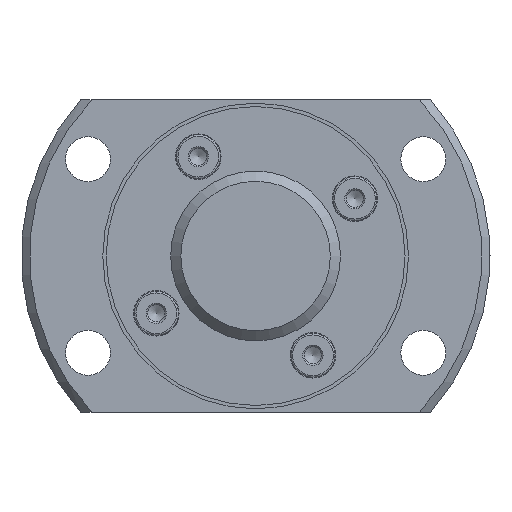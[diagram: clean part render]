
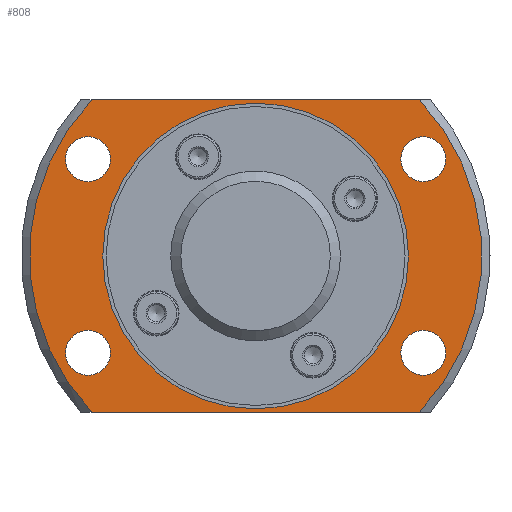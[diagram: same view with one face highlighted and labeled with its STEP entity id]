
A CAD part, left-side view. The second image highlights one B-rep face of the part: STEP entity #808.
In plain terms, the highlighted planar face has unit normal (-1, 0, 0).
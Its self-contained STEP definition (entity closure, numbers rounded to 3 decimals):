
#32=LINE('',#1443,#40);
#33=LINE('',#1444,#41);
#40=VECTOR('',#1127,1000.);
#41=VECTOR('',#1128,1000.);
#171=ORIENTED_EDGE('',*,*,#320,.T.);
#172=ORIENTED_EDGE('',*,*,#321,.F.);
#173=ORIENTED_EDGE('',*,*,#295,.F.);
#174=ORIENTED_EDGE('',*,*,#322,.F.);
#175=ORIENTED_EDGE('',*,*,#318,.F.);
#176=ORIENTED_EDGE('',*,*,#323,.T.);
#177=ORIENTED_EDGE('',*,*,#324,.T.);
#178=ORIENTED_EDGE('',*,*,#325,.T.);
#179=ORIENTED_EDGE('',*,*,#326,.T.);
#295=EDGE_CURVE('',#377,#376,#449,.T.);
#318=EDGE_CURVE('',#396,#397,#467,.T.);
#320=EDGE_CURVE('',#398,#398,#468,.T.);
#321=EDGE_CURVE('',#376,#396,#32,.T.);
#322=EDGE_CURVE('',#397,#377,#33,.T.);
#323=EDGE_CURVE('',#399,#399,#469,.T.);
#324=EDGE_CURVE('',#400,#400,#470,.T.);
#325=EDGE_CURVE('',#401,#401,#471,.T.);
#326=EDGE_CURVE('',#402,#402,#472,.T.);
#376=VERTEX_POINT('',#1366);
#377=VERTEX_POINT('',#1371);
#396=VERTEX_POINT('',#1433);
#397=VERTEX_POINT('',#1435);
#398=VERTEX_POINT('',#1442);
#399=VERTEX_POINT('',#1446);
#400=VERTEX_POINT('',#1448);
#401=VERTEX_POINT('',#1450);
#402=VERTEX_POINT('',#1452);
#449=CIRCLE('',#900,33.3);
#467=CIRCLE('',#929,33.3);
#468=CIRCLE('',#931,22.5);
#469=CIRCLE('',#932,3.3);
#470=CIRCLE('',#933,3.3);
#471=CIRCLE('',#934,3.3);
#472=CIRCLE('',#935,3.3);
#548=EDGE_LOOP('',(#171));
#549=EDGE_LOOP('',(#172,#173,#174,#175));
#550=EDGE_LOOP('',(#176));
#551=EDGE_LOOP('',(#177));
#552=EDGE_LOOP('',(#178));
#553=EDGE_LOOP('',(#179));
#678=FACE_BOUND('',#548,.T.);
#679=FACE_BOUND('',#549,.T.);
#680=FACE_BOUND('',#550,.T.);
#681=FACE_BOUND('',#551,.T.);
#682=FACE_BOUND('',#552,.T.);
#683=FACE_BOUND('',#553,.T.);
#775=PLANE('',#930);
#808=ADVANCED_FACE('',(#678,#679,#680,#681,#682,#683),#775,.T.);
#900=AXIS2_PLACEMENT_3D('',#1372,#1061,#1062);
#929=AXIS2_PLACEMENT_3D('',#1434,#1121,#1122);
#930=AXIS2_PLACEMENT_3D('',#1440,#1123,#1124);
#931=AXIS2_PLACEMENT_3D('',#1441,#1125,#1126);
#932=AXIS2_PLACEMENT_3D('',#1445,#1129,#1130);
#933=AXIS2_PLACEMENT_3D('',#1447,#1131,#1132);
#934=AXIS2_PLACEMENT_3D('',#1449,#1133,#1134);
#935=AXIS2_PLACEMENT_3D('',#1451,#1135,#1136);
#1061=DIRECTION('',(1.,0.,0.));
#1062=DIRECTION('',(0.,0.,-1.));
#1121=DIRECTION('',(1.,0.,0.));
#1122=DIRECTION('',(0.,0.,-1.));
#1123=DIRECTION('',(-1.,0.,0.));
#1124=DIRECTION('',(0.,0.,1.));
#1125=DIRECTION('',(1.,0.,0.));
#1126=DIRECTION('',(0.,0.,-1.));
#1127=DIRECTION('',(0.,1.,0.));
#1128=DIRECTION('',(0.,-1.,0.));
#1129=DIRECTION('',(1.,0.,0.));
#1130=DIRECTION('',(0.,0.,-1.));
#1131=DIRECTION('',(1.,0.,0.));
#1132=DIRECTION('',(0.,0.,-1.));
#1133=DIRECTION('',(1.,0.,0.));
#1134=DIRECTION('',(0.,0.,-1.));
#1135=DIRECTION('',(1.,0.,0.));
#1136=DIRECTION('',(0.,0.,-1.));
#1366=CARTESIAN_POINT('',(8.5,-24.081,-23.));
#1371=CARTESIAN_POINT('',(8.5,-24.081,23.));
#1372=CARTESIAN_POINT('',(8.5,0.,0.));
#1433=CARTESIAN_POINT('',(8.5,24.081,-23.));
#1434=CARTESIAN_POINT('',(8.5,0.,0.));
#1435=CARTESIAN_POINT('',(8.5,24.081,23.));
#1440=CARTESIAN_POINT('',(8.5,33.3,0.));
#1441=CARTESIAN_POINT('',(8.5,0.,0.));
#1442=CARTESIAN_POINT('',(8.5,0.,-22.5));
#1443=CARTESIAN_POINT('',(8.5,33.3,-23.));
#1444=CARTESIAN_POINT('',(8.5,33.3,23.));
#1445=CARTESIAN_POINT('',(8.5,-24.682,14.25));
#1446=CARTESIAN_POINT('',(8.5,-24.682,10.95));
#1447=CARTESIAN_POINT('',(8.5,24.682,-14.25));
#1448=CARTESIAN_POINT('',(8.5,24.682,-17.55));
#1449=CARTESIAN_POINT('',(8.5,-24.682,-14.25));
#1450=CARTESIAN_POINT('',(8.5,-24.682,-17.55));
#1451=CARTESIAN_POINT('',(8.5,24.682,14.25));
#1452=CARTESIAN_POINT('',(8.5,24.682,10.95));
